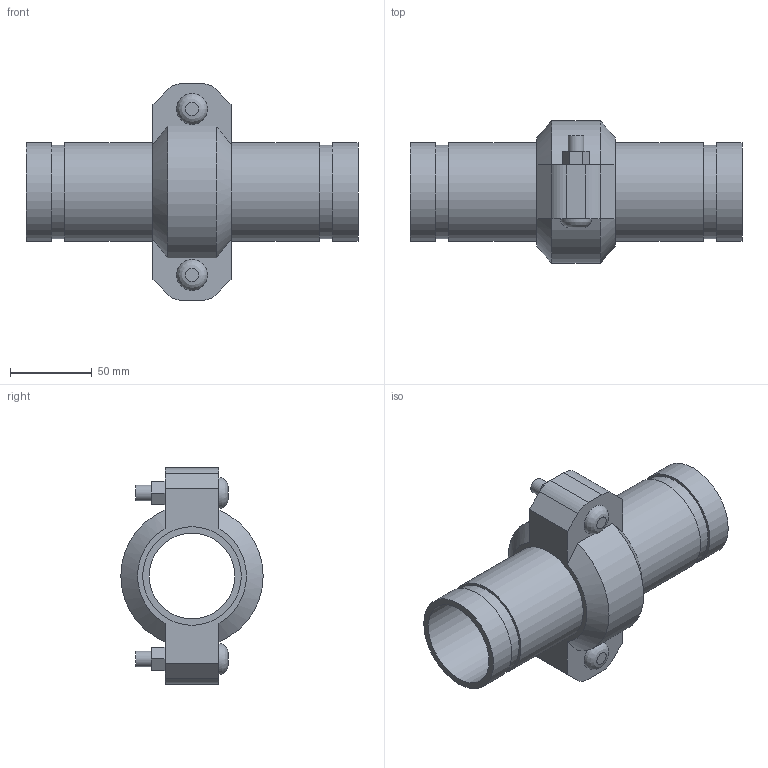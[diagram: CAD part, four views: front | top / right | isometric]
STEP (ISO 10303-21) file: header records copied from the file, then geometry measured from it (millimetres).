
FILE_DESCRIPTION(/* description */ ('VIC EXPANSION JOINT 1 COUPLING COMPRESSED STYLE 155 (OGS)','CAx-IF Rec.Pracs.---Representation and Presentation of Product Manufacturing Information (PMI)---4.0---2014-10-13'),/* implementation_level */ '2;1');
FILE_NAME(/* name */ 'C:\Users\kkamble\AppData\Roaming\Autodesk\ApplicationPlugins\Victaulic.Temp\A74\Victaulic_IPS_Expansion Joint_Compressed_1 Coupling_Style 155 (OGS)_2 (50).stp',/* time_stamp */ '2021-06-27T00:14:13+02:00',/* author */ ('kkamble'),/* organization */ ('Victaulic'),/* preprocessor_version */ 'ST-DEVELOPER v17.2',/* originating_system */ 'Autodesk Inventor 2019',/* authorisation */ '');
FILE_SCHEMA (('AP242_MANAGED_MODEL_BASED_3D_ENGINEERING_MIM_LF { 1 0 10303 442 1 1 4 }'));
Length unit declared in the file: inch
Products named in the file (3): 155-02.0; Nipple-02.0; 075-02.0
Assembly tree (3 placements, depth 2):
  155-02.0
    Nipple-02.0  x2
    075-02.0
Bounding box: 203.2 x 87.12 x 132.59 mm (x, y, z)
Volume: 331539.8 mm3; surface area: 115548.1 mm2
Topology: 3 solids, 5 shells, 77 faces, 187 edges, 134 vertices
Faces by surface type: plane 46, cylinder 25, cone 4, bspline 2
Full cylindrical faces by diameter (mm): 9.525 x4, 11.43 x2, 52.502 x2, 57.15 x4, 60.325 x7
Entity records: 2207 total; most frequent: CARTESIAN_POINT 406, DIRECTION 351, ORIENTED_EDGE 314, EDGE_CURVE 157, AXIS2_PLACEMENT_3D 133, VERTEX_POINT 110, LINE 85, VECTOR 85
